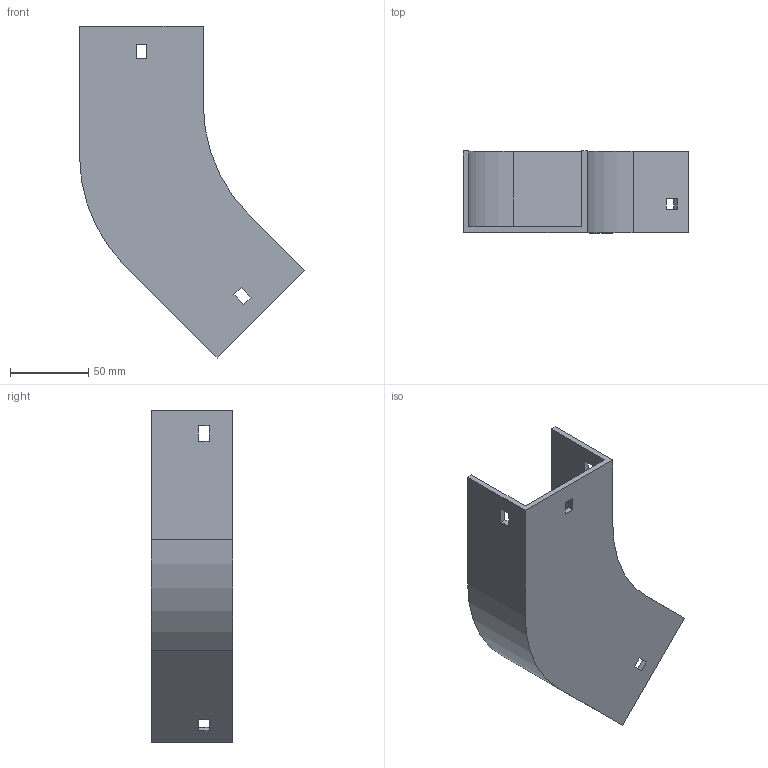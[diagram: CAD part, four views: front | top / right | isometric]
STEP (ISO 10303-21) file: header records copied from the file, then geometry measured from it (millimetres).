
FILE_DESCRIPTION (( 'STEP AP214' ), '1' );
FILE_NAME ('11B1B075.step', '2025-02-21T09:37:27', ( '' ), ( '' ), 'SwSTEP 2.0', 'SolidWorks 2023', '' );
FILE_SCHEMA (( 'AUTOMOTIVE_DESIGN' ));
Length unit declared in the file: millimetre
Products named in the file (1): 11B1B075
Bounding box: 143.64 x 52 x 211.93 mm (x, y, z)
Volume: 129938.1 mm3; surface area: 77654.2 mm2
Topology: 1 solids, 1 shells, 42 faces, 120 edges, 80 vertices
Faces by surface type: plane 38, cylinder 4
Entity records: 1399 total; most frequent: CARTESIAN_POINT 243, ORIENTED_EDGE 240, DIRECTION 214, EDGE_CURVE 120, LINE 112, VECTOR 112, VERTEX_POINT 80, EDGE_LOOP 54
